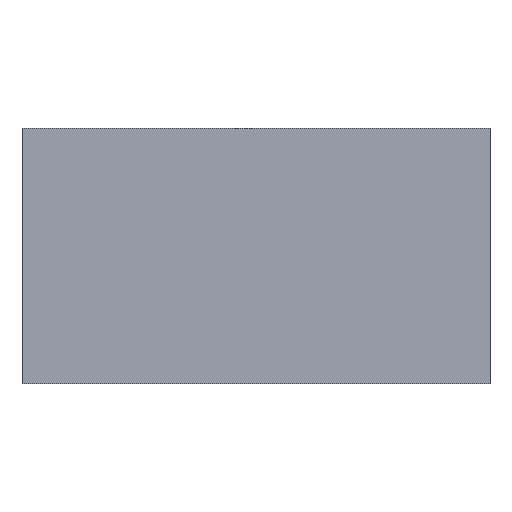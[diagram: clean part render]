
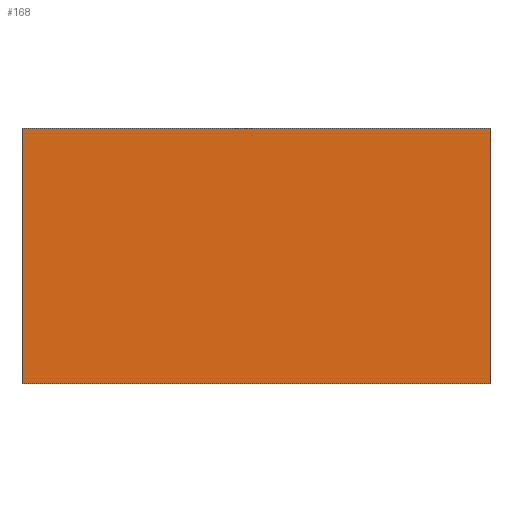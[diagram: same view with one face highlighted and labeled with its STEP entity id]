
A CAD part, front view. The second image highlights one B-rep face of the part: STEP entity #168.
In plain terms, the highlighted planar face has unit normal (0, -1, 0).
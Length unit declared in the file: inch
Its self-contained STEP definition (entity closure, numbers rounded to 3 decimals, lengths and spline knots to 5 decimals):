
#6 = CARTESIAN_POINT ( 'NONE',  ( 2.75, 0., 0. ) ) ;
#8 = DIRECTION ( 'NONE',  ( 0., -1., 0. ) ) ;
#10 = CARTESIAN_POINT ( 'NONE',  ( 2.75, 0., 0. ) ) ;
#13 = CARTESIAN_POINT ( 'NONE',  ( 2.75, 0., -1.5 ) ) ;
#18 = PLANE ( 'NONE',  #202 ) ;
#19 = CARTESIAN_POINT ( 'NONE',  ( 0., 0., 0. ) ) ;
#26 = CARTESIAN_POINT ( 'NONE',  ( 0., 0., -1.5 ) ) ;
#30 = DIRECTION ( 'NONE',  ( 0., 0., -1. ) ) ;
#36 = CARTESIAN_POINT ( 'NONE',  ( 0., 0., -1.5 ) ) ;
#39 = DIRECTION ( 'NONE',  ( 0., 0., -1. ) ) ;
#40 = CARTESIAN_POINT ( 'NONE',  ( 0., 0., 0. ) ) ;
#57 = DIRECTION ( 'NONE',  ( 0., 0., 1. ) ) ;
#64 = CARTESIAN_POINT ( 'NONE',  ( 0., 0., -1.5 ) ) ;
#74 = CARTESIAN_POINT ( 'NONE',  ( 0., 0., 0. ) ) ;
#77 = DIRECTION ( 'NONE',  ( 1., 0., 0. ) ) ;
#80 = DIRECTION ( 'NONE',  ( -1., 0., 0. ) ) ;
#95 = EDGE_LOOP ( 'NONE', ( #135, #148, #122, #149 ) ) ;
#101 = VECTOR ( 'NONE', #77, 39.37008 ) ;
#106 = VECTOR ( 'NONE', #57, 39.37008 ) ;
#109 = LINE ( 'NONE', #74, #106 ) ;
#113 = VERTEX_POINT ( 'NONE', #6 ) ;
#114 = LINE ( 'NONE', #10, #146 ) ;
#122 = ORIENTED_EDGE ( 'NONE', *, *, #181, .F. ) ;
#123 = FACE_OUTER_BOUND ( 'NONE', #95, .T. ) ;
#132 = LINE ( 'NONE', #64, #133 ) ;
#133 = VECTOR ( 'NONE', #80, 39.37008 ) ;
#134 = LINE ( 'NONE', #40, #101 ) ;
#135 = ORIENTED_EDGE ( 'NONE', *, *, #196, .F. ) ;
#142 = VERTEX_POINT ( 'NONE', #19 ) ;
#146 = VECTOR ( 'NONE', #39, 39.37008 ) ;
#147 = VERTEX_POINT ( 'NONE', #26 ) ;
#148 = ORIENTED_EDGE ( 'NONE', *, *, #185, .F. ) ;
#149 = ORIENTED_EDGE ( 'NONE', *, *, #190, .F. ) ;
#150 = VERTEX_POINT ( 'NONE', #13 ) ;
#168 = ADVANCED_FACE ( 'NONE', ( #123 ), #18, .T. ) ;
#181 = EDGE_CURVE ( 'NONE', #113, #150, #114, .T. ) ;
#185 = EDGE_CURVE ( 'NONE', #150, #147, #132, .T. ) ;
#190 = EDGE_CURVE ( 'NONE', #142, #113, #134, .T. ) ;
#196 = EDGE_CURVE ( 'NONE', #147, #142, #109, .T. ) ;
#202 = AXIS2_PLACEMENT_3D ( 'NONE', #36, #8, #30 ) ;
